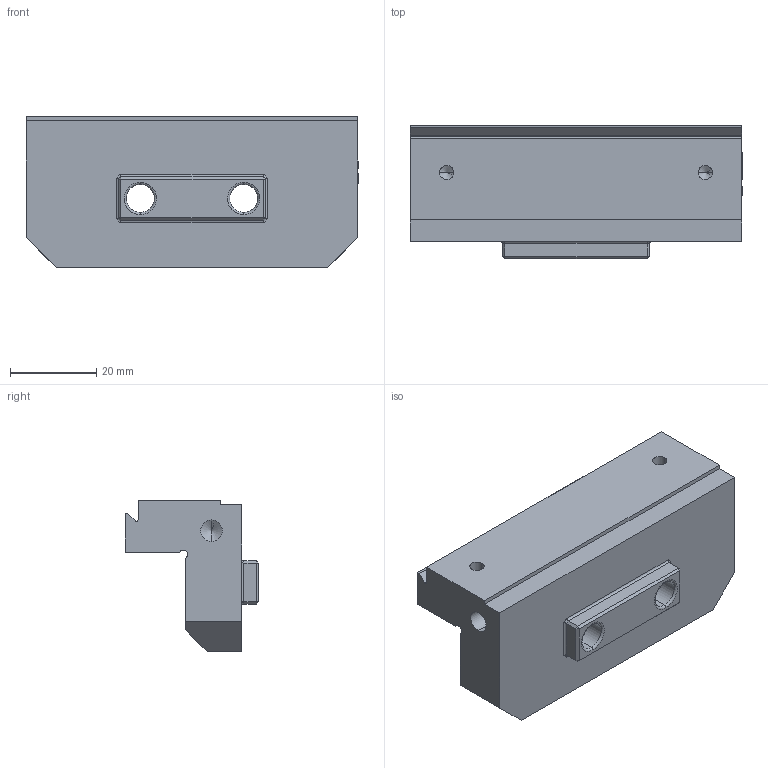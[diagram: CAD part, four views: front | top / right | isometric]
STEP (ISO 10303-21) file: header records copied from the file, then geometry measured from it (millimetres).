
FILE_DESCRIPTION (( 'STEP AP214' ), '1' );
FILE_NAME ('HMVJ-3DS [05-0228 ref].step', '2023-05-02T20:44:23', ( '' ), ( '' ), 'SwSTEP 2.0', 'SolidWorks 2022', '' );
FILE_SCHEMA (( 'AUTOMOTIVE_DESIGN' ));
Length unit declared in the file: millimetre
Products named in the file (1): HMVJ-3DS [05-0228 ref]
Bounding box: 77 x 31 x 35 mm (x, y, z)
Volume: 43638.9 mm3; surface area: 12557.1 mm2
Topology: 1 solids, 1 shells, 308 faces, 771 edges, 496 vertices
Faces by surface type: plane 157, bspline 107, cylinder 32, cone 12
Entity records: 16737 total; most frequent: CARTESIAN_POINT 9673, ORIENTED_EDGE 1518, DIRECTION 997, EDGE_CURVE 759, VERTEX_POINT 496, VECTOR 489, LINE 489, EDGE_LOOP 355
